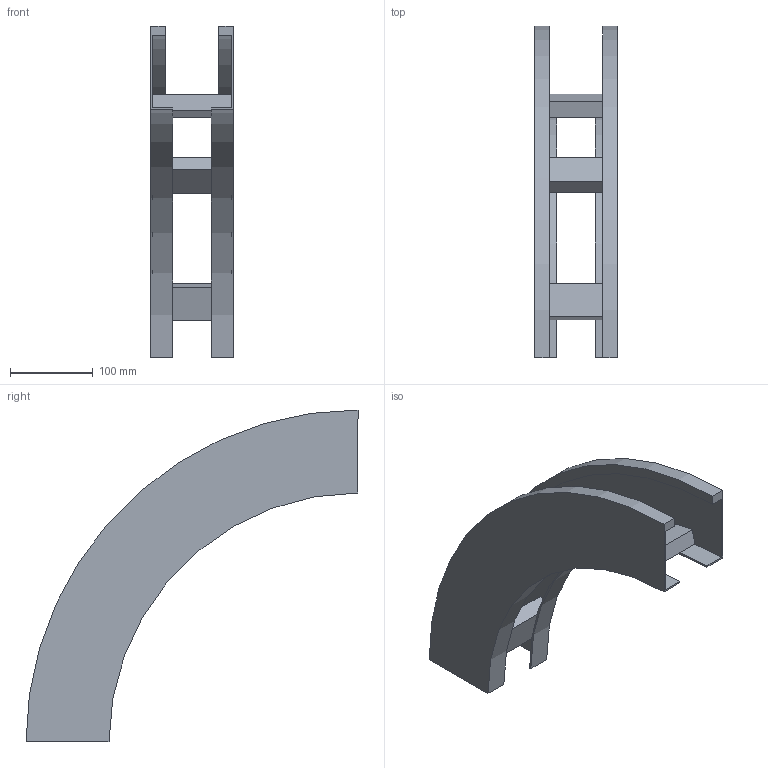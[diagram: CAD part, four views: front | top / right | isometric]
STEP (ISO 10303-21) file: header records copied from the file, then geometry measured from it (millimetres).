
FILE_DESCRIPTION (( 'STEP AP214' ), '1' );
FILE_NAME ('B2_33B3D100.step', '2025-02-21T15:02:17', ( '' ), ( '' ), 'SwSTEP 2.0', 'SolidWorks 2023', '' );
FILE_SCHEMA (( 'AUTOMOTIVE_DESIGN' ));
Length unit declared in the file: millimetre
Products named in the file (3): TRAVERSINO_100; B2_LONGH.DISCESA_90°_H100_R300; B2_33B3D100
Assembly tree (5 placements, depth 2):
  B2_33B3D100
    B2_LONGH.DISCESA_90°_H100_R300  x2
    TRAVERSINO_100  x3
Bounding box: 100 x 400 x 400 mm (x, y, z)
Volume: 738127.7 mm3; surface area: 352675.9 mm2
Topology: 5 solids, 5 shells, 38 faces, 84 edges, 56 vertices
Faces by surface type: plane 30, cylinder 8
Entity records: 560 total; most frequent: DIRECTION 92, CARTESIAN_POINT 84, ORIENTED_EDGE 72, EDGE_CURVE 36, AXIS2_PLACEMENT_3D 32, LINE 28, VECTOR 28, VERTEX_POINT 24
